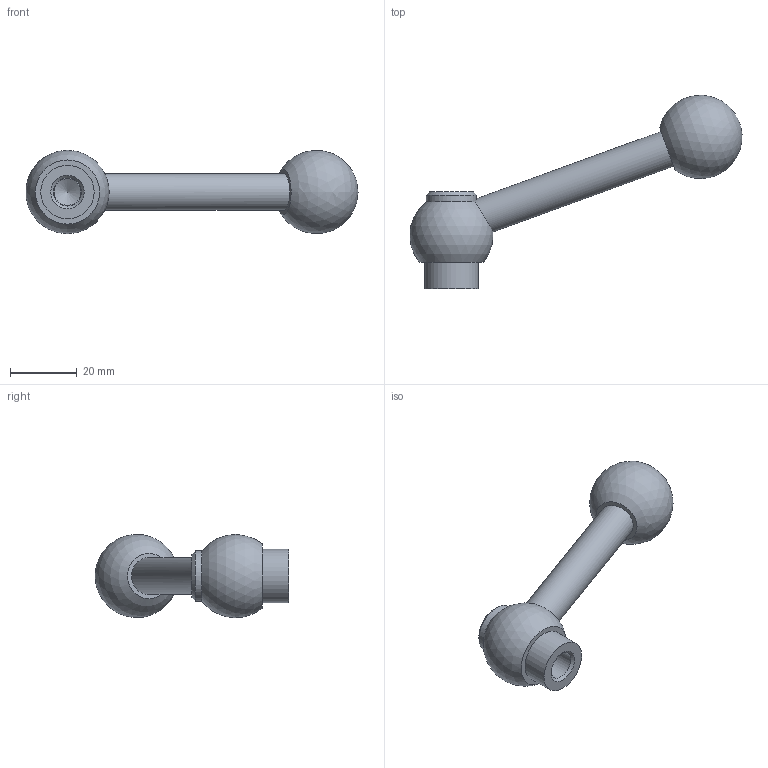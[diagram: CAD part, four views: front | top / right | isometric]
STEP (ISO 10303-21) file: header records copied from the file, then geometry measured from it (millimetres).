
FILE_DESCRIPTION( ( 'STEP AP203' ), '1' );
FILE_NAME( 'C:/Temp/Ganter_Step_05_03_2020/data/2_1/gn_6337_3/gn_6337_3_mb/gn_6337_3_mb_n/Adjustable clamping lever GN 6337.3-25-M10-N.stp', '2020-03-05T11:41:12', ( 'License CC BY-ND 4.0' ), ( 'CADENAS' ), ' ', 'PARTsolutions', ' ' );
FILE_SCHEMA( ( 'CONFIG_CONTROL_DESIGN' ) );
Length unit declared in the file: millimetre
Products named in the file (1): _Adjustable clamping lever GN 6337.3-25-M10-N
Bounding box: 99.39 x 57.98 x 24.98 mm (x, y, z)
Volume: 21957 mm3; surface area: 6599.7 mm2
Topology: 1 solids, 1 shells, 15 faces, 30 edges, 19 vertices
Faces by surface type: cylinder 5, plane 5, cone 3, sphere 2
Full cylindrical faces by diameter (mm): 8 x1, 8.376 x1, 11 x1, 15 x1, 16 x1
Entity records: 418 total; most frequent: CARTESIAN_POINT 119, DIRECTION 58, ORIENTED_EDGE 30, AXIS2_PLACEMENT_3D 29, EDGE_LOOP 27, FACE_OUTER_BOUND 21, VERTEX_POINT 16, ADVANCED_FACE 15
